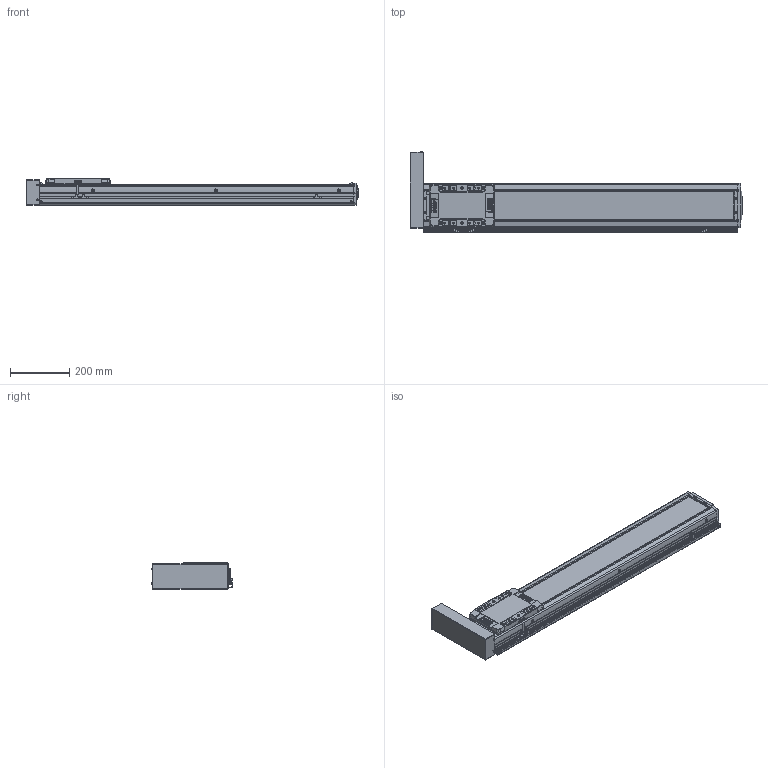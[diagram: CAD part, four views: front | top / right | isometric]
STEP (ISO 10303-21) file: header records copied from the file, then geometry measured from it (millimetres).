
FILE_DESCRIPTION(('STEP AP214'),'1');
FILE_NAME('Z:/Web/3D/SAN150/2013.04 (STP.)/SAN150ㅁㅁ-800PL+3SR.stp','2013-05-07T11:04:20',(' '),(' '),'Spatial InterOp 3D',' ',' ');
FILE_SCHEMA(('automotive_design'));
Length unit declared in the file: millimetre
Products named in the file (60): SLBL-SAN150; SLCV-SAN150; FHCS M4.0 x 8.0; BHCS M4.0 x 10.0; SFX-SAN150; RRCV-SAN150; FRBL-SAN150; Spacer; RN15; FRCV-SAN150; Screw 20; BASE-SAN150-000L ; SUS COVER; 스크루 : Round - M5.0 x 6.0; BHCS M3.0 x 6.0; P; M3.0 x 6.0; SRL-16x17-360L; SGD-SAN150; EE-SX674; SBK-SX674-352; 스크루 : Round - M3.0 x 6.0
Bounding box: 1120 x 273.36 x 90 mm (x, y, z)
Volume: 6977707.5 mm3; surface area: 1306573.5 mm2
Topology: 60 solids, 60 shells, 2738 faces, 7034 edges, 4511 vertices
Faces by surface type: plane 1420, cylinder 899, cone 302, sphere 84, bspline 21, torus 12
Entity records: 108436 total; most frequent: CARTESIAN_POINT 17329, DIRECTION 14904, ORIENTED_EDGE 13812, EDGE_CURVE 6906, AXIS2_PLACEMENT_3D 5321, VERTEX_POINT 4511, LINE 4262, VECTOR 4262
